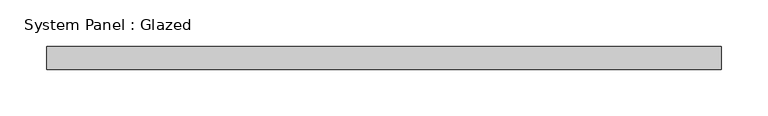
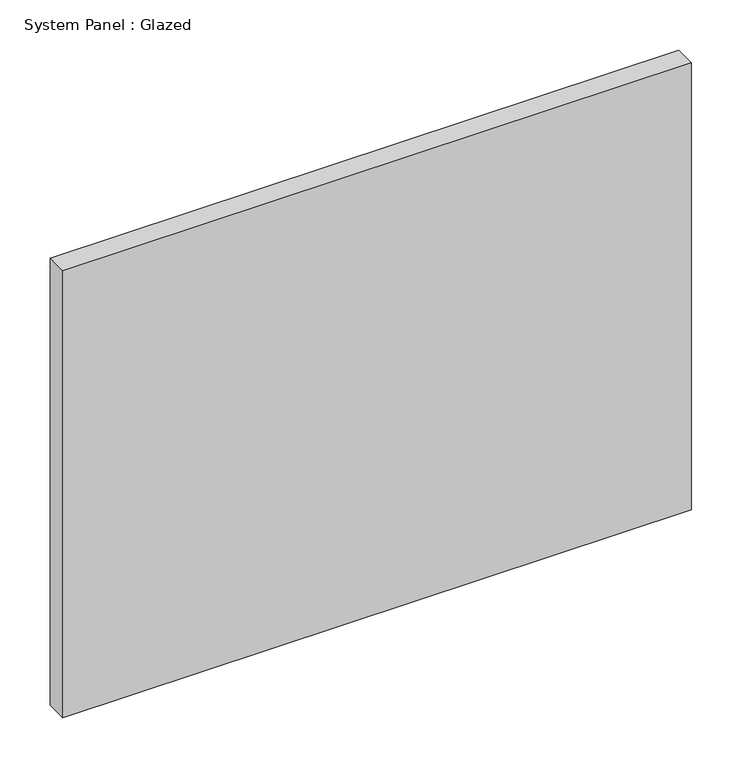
"""IFC4 building model written with IfcOpenShell, lengths in millimetres: plate geometry, System Panel : Glazed."""

from ifc_helpers import new_model, si_unit, origin, origin_with_axes, place, context, project, spatial, polyline, outline, extrude, source, transform, mapped, element, save


def system_panel_glazed_7af4c93c(model_context):
    return source(origin(), model_context, "Body", "SweptSolid", [
        extrude(outline(polyline([(362.5, -12.5), (-362.5, -12.5), (-362.5, 12.5), (362.5, 12.5), (362.5, -12.5)])), origin_with_axes(), (0.0, 0.0, 1.0), 545.0),
    ])


if __name__ == "__main__":
    model = new_model("IFC4")
    model_context = context("Model", 3, world=origin())
    ifc_project = project(units=[si_unit("LENGTHUNIT", "METRE", prefix="MILLI")], contexts=[model_context])
    site = spatial("IfcSite", under=ifc_project)
    building = spatial("IfcBuilding", under=site)
    placement = place(None, origin())
    system_panel_glazed_shape = system_panel_glazed_7af4c93c(model_context)
    element("IfcPlate", 1, ObjectType="System Panel : Glazed", at=placement, inside=building, context=model_context, shape_type="MappedRepresentation", body=[
        mapped(system_panel_glazed_shape, transform((0.0, 0.0, 0.0), x_axis=(1.0, 0.0, 0.0), y_axis=(0.0, 1.0, 0.0), z_axis=(0.0, 0.0, 1.0))),
    ])
    save(model, "model.ifc")
